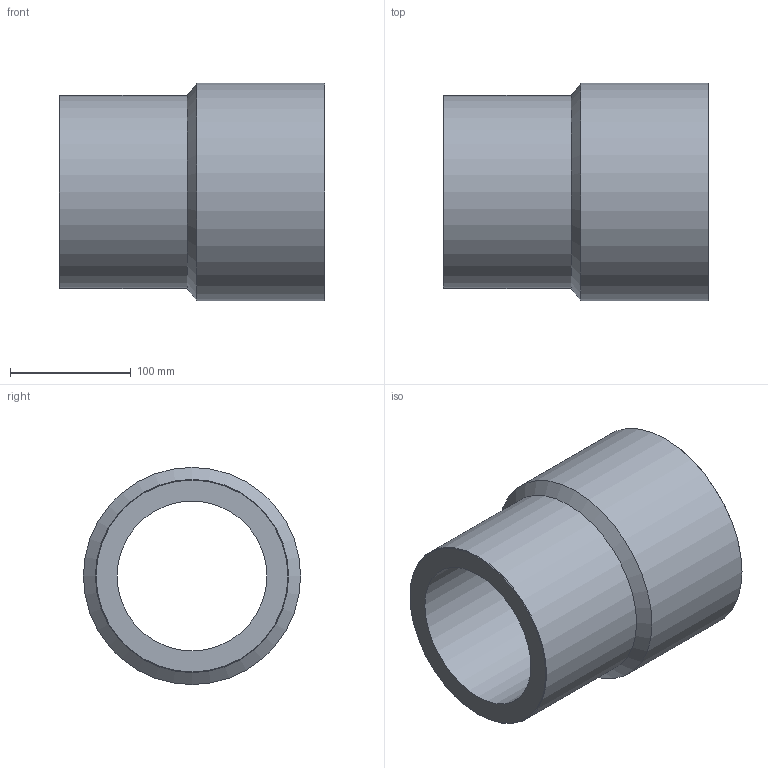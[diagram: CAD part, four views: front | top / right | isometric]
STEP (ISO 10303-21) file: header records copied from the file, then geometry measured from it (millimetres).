
FILE_DESCRIPTION(/* description */ ('Unknown'),/* implementation_level */ '2;1');
FILE_NAME(/* name */ 'RP180160G',/* time_stamp */ '2021-09-16T17:08:57+02:00',/* author */ ('Unknown'),/* organization */ ('Unknown'),/* preprocessor_version */ 'ST-DEVELOPER v16.7',/* originating_system */ 'Solid Edge',/* authorisation */ 'Unknown');
FILE_SCHEMA (('AUTOMOTIVE_DESIGN {1 0 10303 214 3 1 1}'));
Length unit declared in the file: millimetre
Products named in the file (1): RP180160G
Bounding box: 220 x 180 x 180 mm (x, y, z)
Volume: 2010563.6 mm3; surface area: 229646.1 mm2
Topology: 1 solids, 1 shells, 10 faces, 19 edges, 11 vertices
Faces by surface type: cylinder 4, cone 4, plane 2
Full cylindrical faces by diameter (mm): 124.2 x1, 139.8 x1, 160 x1, 180 x1
Entity records: 238 total; most frequent: DIRECTION 42, CARTESIAN_POINT 31, AXIS2_PLACEMENT_3D 21, ORIENTED_EDGE 20, EDGE_LOOP 20, FACE_BOUND 20, EDGE_CURVE 10, VERTEX_POINT 10
